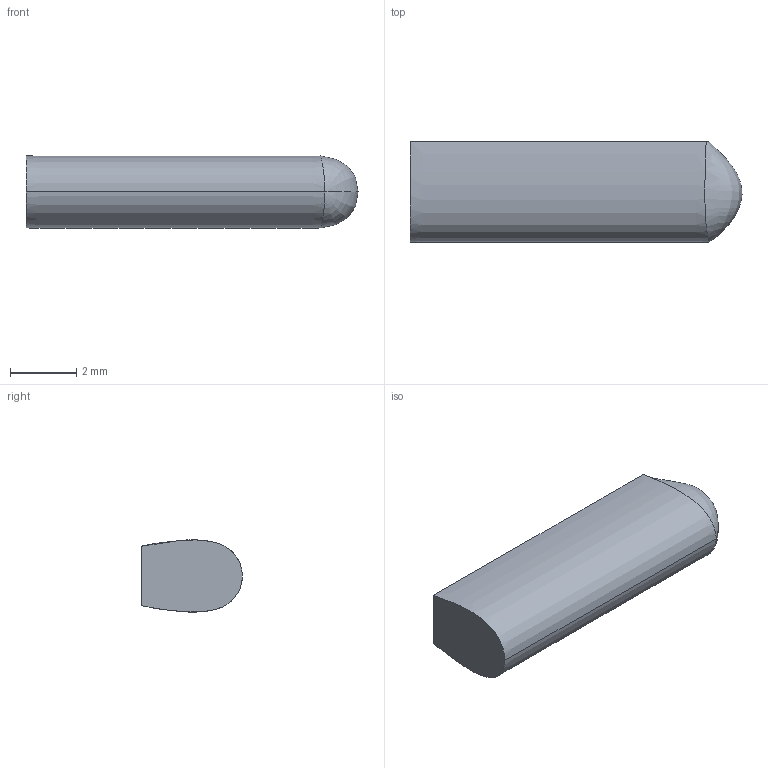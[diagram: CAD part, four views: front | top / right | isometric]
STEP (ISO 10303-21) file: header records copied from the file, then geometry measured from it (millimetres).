
FILE_DESCRIPTION((''),'1');
FILE_NAME('ELEK-ST10-14R','2001-03-30T',('rgoetz'),(''),'PRO/ENGINEER BY PARAMETRIC TECHNOLOGY CORPORATION, 2000350','PRO/ENGINEER BY PARAMETRIC TECHNOLOGY CORPORATION, 2000350','');
FILE_SCHEMA(('CONFIG_CONTROL_DESIGN'));
Length unit declared in the file: millimetre
Products named in the file (1): ELEK-ST10-14R
Bounding box: 10 x 3.03 x 2.18 mm (x, y, z)
Volume: 55.1 mm3; surface area: 95.9 mm2
Topology: 1 solids, 1 shells, 6 faces, 13 edges, 7 vertices
Faces by surface type: plane 2, extrusion 2, bspline 2
Entity records: 579 total; most frequent: CARTESIAN_POINT 438, ORIENTED_EDGE 22, EDGE_CURVE 11, DIRECTION 10, B_SPLINE_CURVE_WITH_KNOTS 9, VERTEX_POINT 7, VECTOR 6, EDGE_LOOP 6
